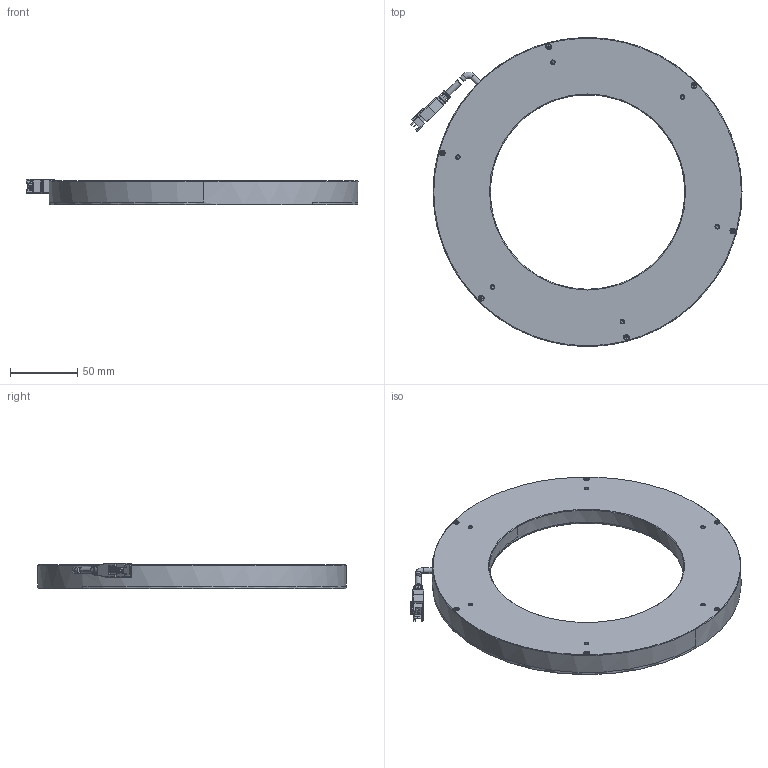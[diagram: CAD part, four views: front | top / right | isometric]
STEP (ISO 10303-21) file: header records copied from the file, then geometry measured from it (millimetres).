
FILE_DESCRIPTION((''),'2;1');
FILE_NAME('MV-LRDS-230-15-X','2024-01-30T15:01:18',('qiaoxuan5'),(''),'CREO PARAMETRIC BY PTC INC, 2020044','CREO PARAMETRIC BY PTC INC, 2020044','');
FILE_SCHEMA(('CONFIG_CONTROL_DESIGN'));
Length unit declared in the file: millimetre
Products named in the file (1): MV-LRDS-230-15-X
Bounding box: 247.2 x 230 x 19 mm (x, y, z)
Volume: 435166.1 mm3; surface area: 86748 mm2
Topology: 2 solids, 56 shells, 977 faces, 2335 edges, 1436 vertices
Faces by surface type: plane 504, cylinder 288, cone 130, torus 38, sphere 8, bspline 8, extrusion 1
Entity records: 31648 total; most frequent: CARTESIAN_POINT 9115, DIRECTION 4779, ORIENTED_EDGE 4462, EDGE_CURVE 2291, AXIS2_PLACEMENT_3D 1733, VERTEX_POINT 1436, VECTOR 1313, LINE 1312
